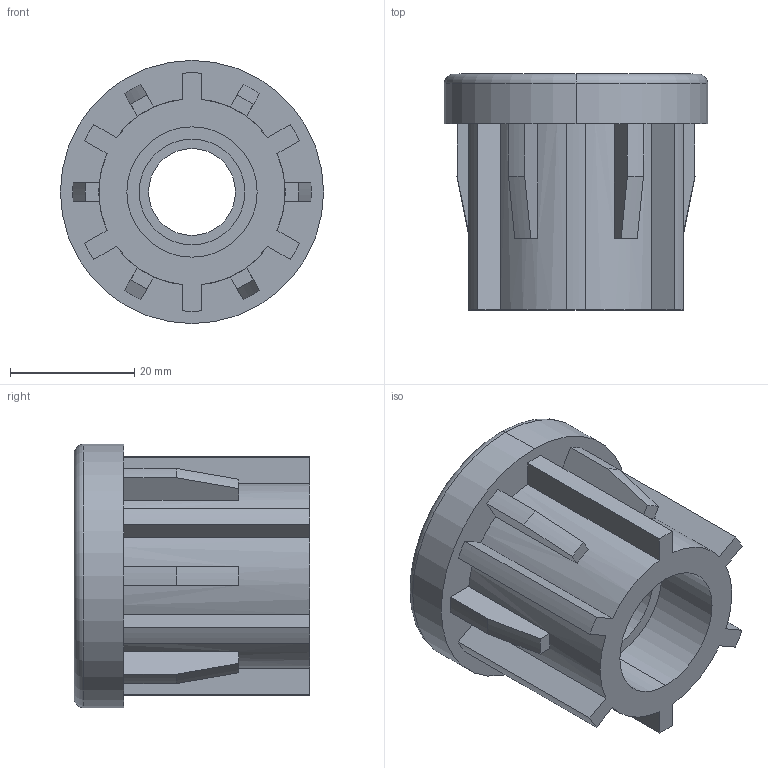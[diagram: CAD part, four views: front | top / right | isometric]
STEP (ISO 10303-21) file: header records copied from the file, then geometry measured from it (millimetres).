
FILE_DESCRIPTION (( 'STEP AP214' ), '1' );
FILE_NAME ('448-D42,4-D38,4-M16.step', '2025-04-09T11:52:53', ( '' ), ( '' ), 'SwSTEP 2.0', 'SolidWorks 2022', '' );
FILE_SCHEMA (( 'AUTOMOTIVE_DESIGN' ));
Length unit declared in the file: millimetre
Products named in the file (1): 448-D42,4-D38,4-M16
Bounding box: 42.4 x 38 x 42.4 mm (x, y, z)
Volume: 26976.5 mm3; surface area: 10661.8 mm2
Topology: 1 solids, 1 shells, 73 faces, 199 edges, 132 vertices
Faces by surface type: plane 36, cylinder 29, cone 6, torus 2
Entity records: 2431 total; most frequent: CARTESIAN_POINT 441, DIRECTION 415, ORIENTED_EDGE 398, EDGE_CURVE 199, AXIS2_PLACEMENT_3D 154, VERTEX_POINT 132, VECTOR 107, LINE 107
